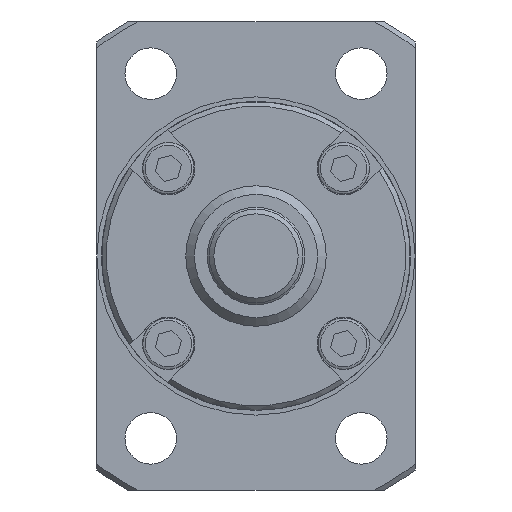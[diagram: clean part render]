
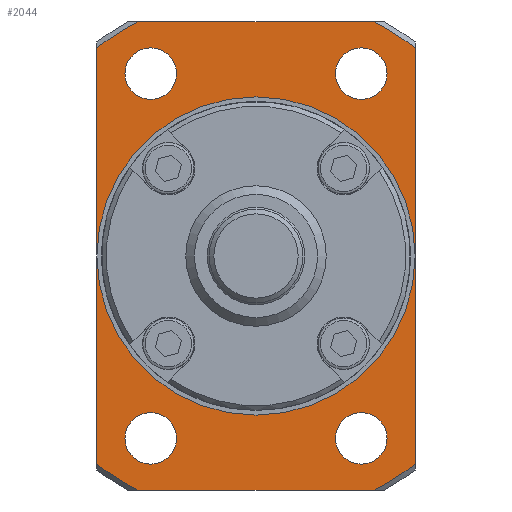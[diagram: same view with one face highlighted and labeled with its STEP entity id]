
A CAD part, left-side view. The second image highlights one B-rep face of the part: STEP entity #2044.
In plain terms, the highlighted planar face has unit normal (-1, 0, 0).
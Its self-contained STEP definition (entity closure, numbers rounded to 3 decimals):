
#185=CIRCLE('',#2274,28.);
#186=CIRCLE('',#2276,28.);
#187=CIRCLE('',#2278,28.);
#188=CIRCLE('',#2280,28.);
#189=CIRCLE('',#2282,15.3);
#190=CIRCLE('',#2283,2.75);
#191=CIRCLE('',#2284,2.75);
#192=CIRCLE('',#2285,2.75);
#193=CIRCLE('',#2286,2.75);
#449=ORIENTED_EDGE('',*,*,#922,.T.);
#450=ORIENTED_EDGE('',*,*,#923,.T.);
#451=ORIENTED_EDGE('',*,*,#924,.T.);
#452=ORIENTED_EDGE('',*,*,#925,.T.);
#453=ORIENTED_EDGE('',*,*,#926,.T.);
#454=ORIENTED_EDGE('',*,*,#911,.F.);
#455=ORIENTED_EDGE('',*,*,#927,.T.);
#456=ORIENTED_EDGE('',*,*,#913,.F.);
#457=ORIENTED_EDGE('',*,*,#928,.T.);
#458=ORIENTED_EDGE('',*,*,#917,.F.);
#459=ORIENTED_EDGE('',*,*,#929,.T.);
#460=ORIENTED_EDGE('',*,*,#919,.F.);
#461=ORIENTED_EDGE('',*,*,#930,.T.);
#911=EDGE_CURVE('',#1151,#1152,#185,.T.);
#913=EDGE_CURVE('',#1153,#1154,#186,.T.);
#917=EDGE_CURVE('',#1155,#1156,#187,.T.);
#919=EDGE_CURVE('',#1157,#1158,#188,.T.);
#922=EDGE_CURVE('',#1159,#1159,#189,.T.);
#923=EDGE_CURVE('',#1160,#1160,#190,.T.);
#924=EDGE_CURVE('',#1161,#1161,#191,.T.);
#925=EDGE_CURVE('',#1162,#1162,#192,.T.);
#926=EDGE_CURVE('',#1163,#1163,#193,.T.);
#927=EDGE_CURVE('',#1151,#1154,#1290,.T.);
#928=EDGE_CURVE('',#1153,#1156,#1291,.T.);
#929=EDGE_CURVE('',#1155,#1158,#1292,.T.);
#930=EDGE_CURVE('',#1157,#1152,#1293,.T.);
#1151=VERTEX_POINT('',#3414);
#1152=VERTEX_POINT('',#3416);
#1153=VERTEX_POINT('',#3423);
#1154=VERTEX_POINT('',#3424);
#1155=VERTEX_POINT('',#3438);
#1156=VERTEX_POINT('',#3440);
#1157=VERTEX_POINT('',#3447);
#1158=VERTEX_POINT('',#3448);
#1159=VERTEX_POINT('',#3459);
#1160=VERTEX_POINT('',#3461);
#1161=VERTEX_POINT('',#3463);
#1162=VERTEX_POINT('',#3465);
#1163=VERTEX_POINT('',#3467);
#1290=LINE('',#3468,#1424);
#1291=LINE('',#3469,#1425);
#1292=LINE('',#3470,#1426);
#1293=LINE('',#3471,#1427);
#1424=VECTOR('',#2738,1000.);
#1425=VECTOR('',#2739,1000.);
#1426=VECTOR('',#2740,1000.);
#1427=VECTOR('',#2741,1000.);
#1578=EDGE_LOOP('',(#449));
#1579=EDGE_LOOP('',(#450));
#1580=EDGE_LOOP('',(#451));
#1581=EDGE_LOOP('',(#452));
#1582=EDGE_LOOP('',(#453));
#1583=EDGE_LOOP('',(#454,#455,#456,#457,#458,#459,#460,#461));
#1788=FACE_BOUND('',#1578,.T.);
#1789=FACE_BOUND('',#1579,.T.);
#1790=FACE_BOUND('',#1580,.T.);
#1791=FACE_BOUND('',#1581,.T.);
#1792=FACE_BOUND('',#1582,.T.);
#1793=FACE_BOUND('',#1583,.T.);
#1936=PLANE('',#2281);
#2044=ADVANCED_FACE('',(#1788,#1789,#1790,#1791,#1792,#1793),#1936,.T.);
#2274=AXIS2_PLACEMENT_3D('',#3415,#2712,#2713);
#2276=AXIS2_PLACEMENT_3D('',#3422,#2716,#2717);
#2278=AXIS2_PLACEMENT_3D('',#3439,#2720,#2721);
#2280=AXIS2_PLACEMENT_3D('',#3446,#2724,#2725);
#2281=AXIS2_PLACEMENT_3D('',#3457,#2726,#2727);
#2282=AXIS2_PLACEMENT_3D('',#3458,#2728,#2729);
#2283=AXIS2_PLACEMENT_3D('',#3460,#2730,#2731);
#2284=AXIS2_PLACEMENT_3D('',#3462,#2732,#2733);
#2285=AXIS2_PLACEMENT_3D('',#3464,#2734,#2735);
#2286=AXIS2_PLACEMENT_3D('',#3466,#2736,#2737);
#2712=DIRECTION('',(1.,0.,0.));
#2713=DIRECTION('',(0.,0.,-1.));
#2716=DIRECTION('',(1.,0.,0.));
#2717=DIRECTION('',(0.,0.,-1.));
#2720=DIRECTION('',(1.,0.,0.));
#2721=DIRECTION('',(0.,0.,-1.));
#2724=DIRECTION('',(1.,0.,0.));
#2725=DIRECTION('',(0.,0.,-1.));
#2726=DIRECTION('',(-1.,0.,0.));
#2727=DIRECTION('',(0.,0.,1.));
#2728=DIRECTION('',(1.,0.,0.));
#2729=DIRECTION('',(0.,0.,-1.));
#2730=DIRECTION('',(1.,0.,0.));
#2731=DIRECTION('',(0.,0.,-1.));
#2732=DIRECTION('',(1.,0.,0.));
#2733=DIRECTION('',(0.,0.,-1.));
#2734=DIRECTION('',(1.,0.,0.));
#2735=DIRECTION('',(0.,0.,-1.));
#2736=DIRECTION('',(1.,0.,0.));
#2737=DIRECTION('',(0.,0.,-1.));
#2738=DIRECTION('',(0.,1.,0.));
#2739=DIRECTION('',(0.,0.,-1.));
#2740=DIRECTION('',(0.,-1.,0.));
#2741=DIRECTION('',(0.,0.,1.));
#3414=CARTESIAN_POINT('',(24.,-12.61,25.));
#3415=CARTESIAN_POINT('',(24.,0.,0.));
#3416=CARTESIAN_POINT('',(24.,-17.,22.249));
#3422=CARTESIAN_POINT('',(24.,0.,0.));
#3423=CARTESIAN_POINT('',(24.,17.,22.249));
#3424=CARTESIAN_POINT('',(24.,12.61,25.));
#3438=CARTESIAN_POINT('',(24.,12.61,-25.));
#3439=CARTESIAN_POINT('',(24.,0.,0.));
#3440=CARTESIAN_POINT('',(24.,17.,-22.249));
#3446=CARTESIAN_POINT('',(24.,0.,0.));
#3447=CARTESIAN_POINT('',(24.,-17.,-22.249));
#3448=CARTESIAN_POINT('',(24.,-12.61,-25.));
#3457=CARTESIAN_POINT('',(24.,28.,0.));
#3458=CARTESIAN_POINT('',(24.,0.,0.));
#3459=CARTESIAN_POINT('',(24.,0.,-15.3));
#3460=CARTESIAN_POINT('',(24.,11.25,19.486));
#3461=CARTESIAN_POINT('',(24.,11.25,16.736));
#3462=CARTESIAN_POINT('',(24.,-11.25,19.486));
#3463=CARTESIAN_POINT('',(24.,-11.25,16.736));
#3464=CARTESIAN_POINT('',(24.,-11.25,-19.486));
#3465=CARTESIAN_POINT('',(24.,-11.25,-22.236));
#3466=CARTESIAN_POINT('',(24.,11.25,-19.486));
#3467=CARTESIAN_POINT('',(24.,11.25,-22.236));
#3468=CARTESIAN_POINT('',(24.,28.,25.));
#3469=CARTESIAN_POINT('',(24.,17.,0.));
#3470=CARTESIAN_POINT('',(24.,28.,-25.));
#3471=CARTESIAN_POINT('',(24.,-17.,0.));
